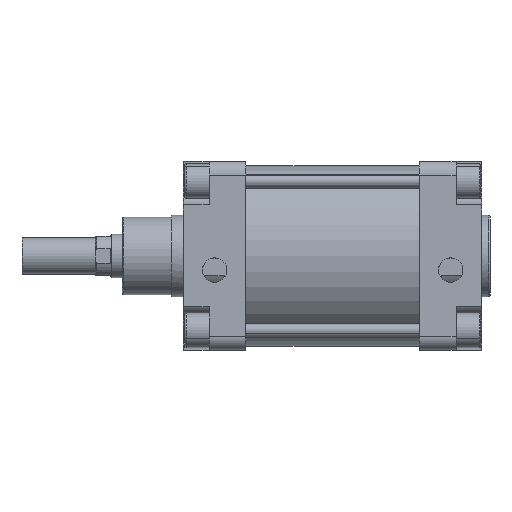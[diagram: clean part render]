
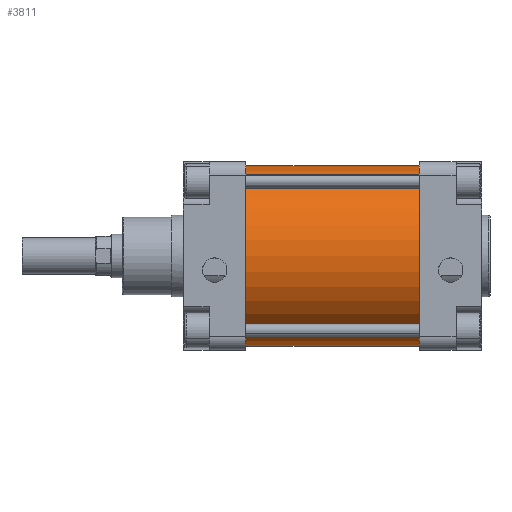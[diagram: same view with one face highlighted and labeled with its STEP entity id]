
A CAD part, top view. The second image highlights one B-rep face of the part: STEP entity #3811.
In plain terms, the highlighted cylindrical face has radius 66.5 mm (diameter 133 mm), a partial arc.
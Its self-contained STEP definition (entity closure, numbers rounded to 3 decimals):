
#3206=CARTESIAN_POINT('Vertex',(128.,-66.5,0.)) ;
#3208=CARTESIAN_POINT('Vertex',(128.,66.5,0.)) ;
#3211=CARTESIAN_POINT('Axis2P3D Location',(128.,0.,0.)) ;
#3781=CARTESIAN_POINT('Axis2P3D Location',(64.,0.,0.)) ;
#3786=CARTESIAN_POINT('Line Origine',(64.,66.5,0.)) ;
#3790=CARTESIAN_POINT('Vertex',(0.,66.5,0.)) ;
#3793=CARTESIAN_POINT('Axis2P3D Location',(0.,0.,0.)) ;
#3797=CARTESIAN_POINT('Vertex',(0.,-66.5,0.)) ;
#3800=CARTESIAN_POINT('Line Origine',(64.,-66.5,0.)) ;
#3212=DIRECTION('Axis2P3D Direction',(1.,0.,0.)) ;
#3782=DIRECTION('Axis2P3D Direction',(1.,0.,0.)) ;
#3783=DIRECTION('Axis2P3D XDirection',(0.,1.,0.)) ;
#3787=DIRECTION('Vector Direction',(1.,0.,0.)) ;
#3794=DIRECTION('Axis2P3D Direction',(1.,0.,0.)) ;
#3801=DIRECTION('Vector Direction',(1.,0.,0.)) ;
#3213=AXIS2_PLACEMENT_3D('Circle Axis2P3D',#3211,#3212,$) ;
#3784=AXIS2_PLACEMENT_3D('Cylinder Axis2P3D',#3781,#3782,#3783) ;
#3795=AXIS2_PLACEMENT_3D('Circle Axis2P3D',#3793,#3794,$) ;
#3806=ORIENTED_EDGE('',*,*,#3792,.F.) ;
#3807=ORIENTED_EDGE('',*,*,#3799,.T.) ;
#3808=ORIENTED_EDGE('',*,*,#3804,.T.) ;
#3809=ORIENTED_EDGE('',*,*,#3215,.F.) ;
#3788=VECTOR('Line Direction',#3787,1.) ;
#3802=VECTOR('Line Direction',#3801,1.) ;
#3811=ADVANCED_FACE('PartBody',(#3810),#3785,.T.) ;
#3214=CIRCLE('generated circle',#3213,66.5) ;
#3796=CIRCLE('generated circle',#3795,66.5) ;
#3785=CYLINDRICAL_SURFACE('generated cylinder',#3784,66.5) ;
#3215=EDGE_CURVE('',#3209,#3207,#3214,.T.) ;
#3792=EDGE_CURVE('',#3791,#3209,#3789,.T.) ;
#3799=EDGE_CURVE('',#3791,#3798,#3796,.T.) ;
#3804=EDGE_CURVE('',#3798,#3207,#3803,.T.) ;
#3805=EDGE_LOOP('',(#3806,#3807,#3808,#3809)) ;
#3810=FACE_OUTER_BOUND('',#3805,.T.) ;
#3789=LINE('Line',#3786,#3788) ;
#3803=LINE('Line',#3800,#3802) ;
#3207=VERTEX_POINT('',#3206) ;
#3209=VERTEX_POINT('',#3208) ;
#3791=VERTEX_POINT('',#3790) ;
#3798=VERTEX_POINT('',#3797) ;
